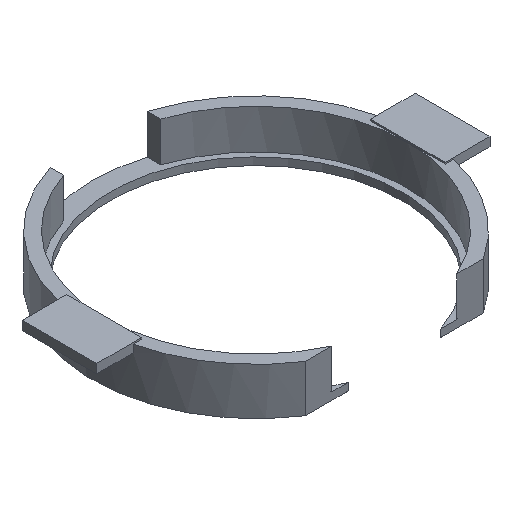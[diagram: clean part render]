
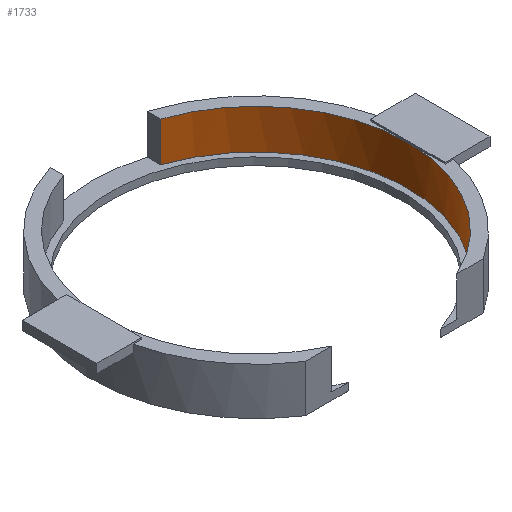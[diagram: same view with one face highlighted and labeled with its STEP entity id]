
A CAD part, isometric view. The second image highlights one B-rep face of the part: STEP entity #1733.
In plain terms, the highlighted cylindrical face has radius 20.3 mm (diameter 40.6 mm), a partial arc.
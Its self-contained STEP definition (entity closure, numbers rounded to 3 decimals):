
#43 = PLANE('',#44);
#44 = AXIS2_PLACEMENT_3D('',#45,#46,#47);
#45 = CARTESIAN_POINT('',(6.5,3.,4.1));
#46 = DIRECTION('',(1.,0.,0.));
#47 = DIRECTION('',(0.,0.,1.));
#71 = PLANE('',#72);
#72 = AXIS2_PLACEMENT_3D('',#73,#74,#75);
#73 = CARTESIAN_POINT('',(0.,33.,4.8));
#74 = DIRECTION('',(0.,0.,1.));
#75 = DIRECTION('',(1.,0.,-0.));
#322 = PLANE('',#323);
#323 = AXIS2_PLACEMENT_3D('',#324,#325,#326);
#324 = CARTESIAN_POINT('',(-50.,14.5,-15.));
#325 = DIRECTION('',(0.,1.,0.));
#326 = DIRECTION('',(0.,0.,1.));
#349 = PLANE('',#350);
#350 = AXIS2_PLACEMENT_3D('',#351,#352,#353);
#351 = CARTESIAN_POINT('',(0.,33.,10.1));
#352 = DIRECTION('',(0.,0.,1.));
#353 = DIRECTION('',(1.,0.,-0.));
#465 = PLANE('',#466);
#466 = AXIS2_PLACEMENT_3D('',#467,#468,#469);
#467 = CARTESIAN_POINT('',(0.,33.,10.1));
#468 = DIRECTION('',(0.,0.,1.));
#469 = DIRECTION('',(1.,0.,-0.));
#485 = VERTEX_POINT('',#486);
#486 = CARTESIAN_POINT('',(6.5,52.231,10.1));
#507 = EDGE_CURVE('',#485,#508,#510,.T.);
#508 = VERTEX_POINT('',#509);
#509 = CARTESIAN_POINT('',(6.5,52.231,4.8));
#510 = SURFACE_CURVE('',#511,(#515,#522),.PCURVE_S1.);
#511 = LINE('',#512,#513);
#512 = CARTESIAN_POINT('',(6.5,52.231,4.4));
#513 = VECTOR('',#514,1.);
#514 = DIRECTION('',(-0.,-0.,-1.));
#515 = PCURVE('',#43,#516);
#516 = DEFINITIONAL_REPRESENTATION('',(#517),#521);
#517 = LINE('',#518,#519);
#518 = CARTESIAN_POINT('',(0.3,-49.231));
#519 = VECTOR('',#520,1.);
#520 = DIRECTION('',(-1.,0.));
#521 = ( GEOMETRIC_REPRESENTATION_CONTEXT(2) 
PARAMETRIC_REPRESENTATION_CONTEXT() REPRESENTATION_CONTEXT('2D SPACE',''
  ) );
#522 = PCURVE('',#523,#528);
#523 = CYLINDRICAL_SURFACE('',#524,20.3);
#524 = AXIS2_PLACEMENT_3D('',#525,#526,#527);
#525 = CARTESIAN_POINT('',(0.,33.,4.4));
#526 = DIRECTION('',(-0.,-0.,-1.));
#527 = DIRECTION('',(1.,0.,0.));
#528 = DEFINITIONAL_REPRESENTATION('',(#529),#533);
#529 = LINE('',#530,#531);
#530 = CARTESIAN_POINT('',(-7.528,0.));
#531 = VECTOR('',#532,1.);
#532 = DIRECTION('',(-0.,1.));
#533 = ( GEOMETRIC_REPRESENTATION_CONTEXT(2) 
PARAMETRIC_REPRESENTATION_CONTEXT() REPRESENTATION_CONTEXT('2D SPACE',''
  ) );
#560 = EDGE_CURVE('',#485,#561,#563,.T.);
#561 = VERTEX_POINT('',#562);
#562 = CARTESIAN_POINT('',(20.3,33.,10.1));
#563 = SURFACE_CURVE('',#564,(#569,#580),.PCURVE_S1.);
#564 = CIRCLE('',#565,20.3);
#565 = AXIS2_PLACEMENT_3D('',#566,#567,#568);
#566 = CARTESIAN_POINT('',(0.,33.,10.1));
#567 = DIRECTION('',(0.,0.,-1.));
#568 = DIRECTION('',(0.32,0.947,0.));
#569 = PCURVE('',#465,#570);
#570 = DEFINITIONAL_REPRESENTATION('',(#571),#579);
#571 = ( BOUNDED_CURVE() B_SPLINE_CURVE(2,(#572,#573,#574,#575,#576,#577
,#578),.UNSPECIFIED.,.T.,.F.) B_SPLINE_CURVE_WITH_KNOTS((1,2,2,2,2,1),(
    -2.094,0.,2.094,4.189,6.283,
8.378),.UNSPECIFIED.) CURVE() GEOMETRIC_REPRESENTATION_ITEM() 
RATIONAL_B_SPLINE_CURVE((1.,0.5,1.,0.5,1.,0.5,1.)) REPRESENTATION_ITEM(
  '') );
#572 = CARTESIAN_POINT('',(6.5,19.231));
#573 = CARTESIAN_POINT('',(39.809,7.973));
#574 = CARTESIAN_POINT('',(13.405,-15.245));
#575 = CARTESIAN_POINT('',(-13.,-38.462));
#576 = CARTESIAN_POINT('',(-19.905,-3.986));
#577 = CARTESIAN_POINT('',(-26.809,30.49));
#578 = CARTESIAN_POINT('',(6.5,19.231));
#579 = ( GEOMETRIC_REPRESENTATION_CONTEXT(2) 
PARAMETRIC_REPRESENTATION_CONTEXT() REPRESENTATION_CONTEXT('2D SPACE',''
  ) );
#580 = PCURVE('',#523,#581);
#581 = DEFINITIONAL_REPRESENTATION('',(#582),#586);
#582 = LINE('',#583,#584);
#583 = CARTESIAN_POINT('',(-7.528,-5.7));
#584 = VECTOR('',#585,1.);
#585 = DIRECTION('',(1.,-0.));
#586 = ( GEOMETRIC_REPRESENTATION_CONTEXT(2) 
PARAMETRIC_REPRESENTATION_CONTEXT() REPRESENTATION_CONTEXT('2D SPACE',''
  ) );
#892 = VERTEX_POINT('',#893);
#893 = CARTESIAN_POINT('',(8.357,14.5,10.1));
#935 = EDGE_CURVE('',#561,#892,#936,.T.);
#936 = SURFACE_CURVE('',#937,(#942,#953),.PCURVE_S1.);
#937 = CIRCLE('',#938,20.3);
#938 = AXIS2_PLACEMENT_3D('',#939,#940,#941);
#939 = CARTESIAN_POINT('',(0.,33.,10.1));
#940 = DIRECTION('',(0.,0.,-1.));
#941 = DIRECTION('',(0.32,0.947,0.));
#942 = PCURVE('',#349,#943);
#943 = DEFINITIONAL_REPRESENTATION('',(#944),#952);
#944 = ( BOUNDED_CURVE() B_SPLINE_CURVE(2,(#945,#946,#947,#948,#949,#950
,#951),.UNSPECIFIED.,.T.,.F.) B_SPLINE_CURVE_WITH_KNOTS((1,2,2,2,2,1),(
    -2.094,0.,2.094,4.189,6.283,
8.378),.UNSPECIFIED.) CURVE() GEOMETRIC_REPRESENTATION_ITEM() 
RATIONAL_B_SPLINE_CURVE((1.,0.5,1.,0.5,1.,0.5,1.)) REPRESENTATION_ITEM(
  '') );
#945 = CARTESIAN_POINT('',(6.5,19.231));
#946 = CARTESIAN_POINT('',(39.809,7.973));
#947 = CARTESIAN_POINT('',(13.405,-15.245));
#948 = CARTESIAN_POINT('',(-13.,-38.462));
#949 = CARTESIAN_POINT('',(-19.905,-3.986));
#950 = CARTESIAN_POINT('',(-26.809,30.49));
#951 = CARTESIAN_POINT('',(6.5,19.231));
#952 = ( GEOMETRIC_REPRESENTATION_CONTEXT(2) 
PARAMETRIC_REPRESENTATION_CONTEXT() REPRESENTATION_CONTEXT('2D SPACE',''
  ) );
#953 = PCURVE('',#523,#954);
#954 = DEFINITIONAL_REPRESENTATION('',(#955),#959);
#955 = LINE('',#956,#957);
#956 = CARTESIAN_POINT('',(-7.528,-5.7));
#957 = VECTOR('',#958,1.);
#958 = DIRECTION('',(1.,-0.));
#959 = ( GEOMETRIC_REPRESENTATION_CONTEXT(2) 
PARAMETRIC_REPRESENTATION_CONTEXT() REPRESENTATION_CONTEXT('2D SPACE',''
  ) );
#1014 = VERTEX_POINT('',#1015);
#1015 = CARTESIAN_POINT('',(8.357,14.5,4.8));
#1034 = EDGE_CURVE('',#892,#1014,#1035,.T.);
#1035 = SURFACE_CURVE('',#1036,(#1040,#1046),.PCURVE_S1.);
#1036 = LINE('',#1037,#1038);
#1037 = CARTESIAN_POINT('',(8.357,14.5,4.4));
#1038 = VECTOR('',#1039,1.);
#1039 = DIRECTION('',(-0.,-0.,-1.));
#1040 = PCURVE('',#322,#1041);
#1041 = DEFINITIONAL_REPRESENTATION('',(#1042),#1045);
#1042 = B_SPLINE_CURVE_WITH_KNOTS('',1,(#1043,#1044),.UNSPECIFIED.,.F.,
  .F.,(2,2),(-5.7,-0.4),.PIECEWISE_BEZIER_KNOTS.);
#1043 = CARTESIAN_POINT('',(25.1,58.357));
#1044 = CARTESIAN_POINT('',(19.8,58.357));
#1045 = ( GEOMETRIC_REPRESENTATION_CONTEXT(2) 
PARAMETRIC_REPRESENTATION_CONTEXT() REPRESENTATION_CONTEXT('2D SPACE',''
  ) );
#1046 = PCURVE('',#523,#1047);
#1047 = DEFINITIONAL_REPRESENTATION('',(#1048),#1051);
#1048 = B_SPLINE_CURVE_WITH_KNOTS('',1,(#1049,#1050),.UNSPECIFIED.,.F.,
  .F.,(2,2),(-5.7,-0.4),.PIECEWISE_BEZIER_KNOTS.);
#1049 = CARTESIAN_POINT('',(-5.137,-5.7));
#1050 = CARTESIAN_POINT('',(-5.137,-0.4));
#1051 = ( GEOMETRIC_REPRESENTATION_CONTEXT(2) 
PARAMETRIC_REPRESENTATION_CONTEXT() REPRESENTATION_CONTEXT('2D SPACE',''
  ) );
#1708 = EDGE_CURVE('',#508,#1014,#1709,.T.);
#1709 = SURFACE_CURVE('',#1710,(#1715,#1726),.PCURVE_S1.);
#1710 = CIRCLE('',#1711,20.3);
#1711 = AXIS2_PLACEMENT_3D('',#1712,#1713,#1714);
#1712 = CARTESIAN_POINT('',(0.,33.,4.8));
#1713 = DIRECTION('',(0.,0.,-1.));
#1714 = DIRECTION('',(1.,0.,0.));
#1715 = PCURVE('',#71,#1716);
#1716 = DEFINITIONAL_REPRESENTATION('',(#1717),#1725);
#1717 = ( BOUNDED_CURVE() B_SPLINE_CURVE(2,(#1718,#1719,#1720,#1721,
#1722,#1723,#1724),.UNSPECIFIED.,.T.,.F.) B_SPLINE_CURVE_WITH_KNOTS((1,2
    ,2,2,2,1),(-2.094,0.,2.094,4.189,
6.283,8.378),.UNSPECIFIED.) CURVE() 
GEOMETRIC_REPRESENTATION_ITEM() RATIONAL_B_SPLINE_CURVE((1.,0.5,1.,0.5,
1.,0.5,1.)) REPRESENTATION_ITEM('') );
#1718 = CARTESIAN_POINT('',(20.3,0.));
#1719 = CARTESIAN_POINT('',(20.3,-35.161));
#1720 = CARTESIAN_POINT('',(-10.15,-17.58));
#1721 = CARTESIAN_POINT('',(-40.6,0.));
#1722 = CARTESIAN_POINT('',(-10.15,17.58));
#1723 = CARTESIAN_POINT('',(20.3,35.161));
#1724 = CARTESIAN_POINT('',(20.3,0.));
#1725 = ( GEOMETRIC_REPRESENTATION_CONTEXT(2) 
PARAMETRIC_REPRESENTATION_CONTEXT() REPRESENTATION_CONTEXT('2D SPACE',''
  ) );
#1726 = PCURVE('',#523,#1727);
#1727 = DEFINITIONAL_REPRESENTATION('',(#1728),#1732);
#1728 = LINE('',#1729,#1730);
#1729 = CARTESIAN_POINT('',(-12.566,-0.4));
#1730 = VECTOR('',#1731,1.);
#1731 = DIRECTION('',(1.,-0.));
#1732 = ( GEOMETRIC_REPRESENTATION_CONTEXT(2) 
PARAMETRIC_REPRESENTATION_CONTEXT() REPRESENTATION_CONTEXT('2D SPACE',''
  ) );
#1733 = ADVANCED_FACE('',(#1734),#523,.F.);
#1734 = FACE_BOUND('',#1735,.T.);
#1735 = EDGE_LOOP('',(#1736,#1737,#1738,#1739,#1740));
#1736 = ORIENTED_EDGE('',*,*,#560,.F.);
#1737 = ORIENTED_EDGE('',*,*,#507,.T.);
#1738 = ORIENTED_EDGE('',*,*,#1708,.T.);
#1739 = ORIENTED_EDGE('',*,*,#1034,.F.);
#1740 = ORIENTED_EDGE('',*,*,#935,.F.);
